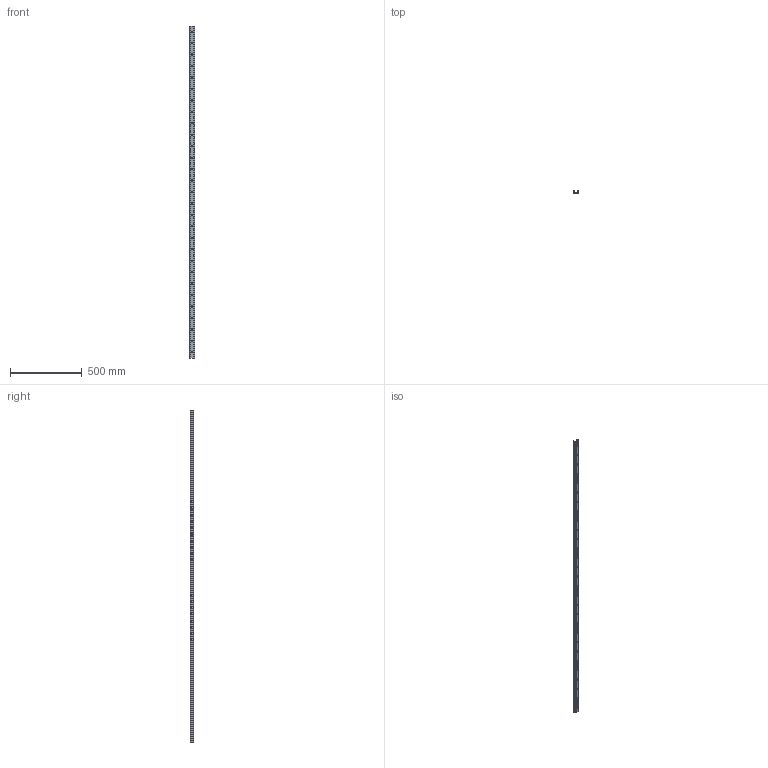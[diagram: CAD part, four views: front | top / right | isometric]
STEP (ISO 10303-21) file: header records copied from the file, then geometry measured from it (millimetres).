
FILE_DESCRIPTION(('STEP AP214'),'1');
FILE_NAME('rail_tex40-2320.stp','2019-03-08T08:33:38',('TraceParts'),('TraceParts S.A.'),'Spatial InterOp 3D',' ',' ');
FILE_SCHEMA(('automotive_design'));
Length unit declared in the file: millimetre
Products named in the file (1): rail_tex40-2320
Bounding box: 39.53 x 21 x 2320 mm (x, y, z)
Volume: 453595.9 mm3; surface area: 319565.9 mm2
Topology: 1 solids, 1 shells, 517 faces, 1341 edges, 894 vertices
Faces by surface type: plane 363, bspline 84, cylinder 70
Entity records: 32800 total; most frequent: CARTESIAN_POINT 16269, ORIENTED_EDGE 2682, DIRECTION 2181, EDGE_CURVE 1341, LINE 1033, VECTOR 1033, VERTEX_POINT 894, EDGE_LOOP 643
